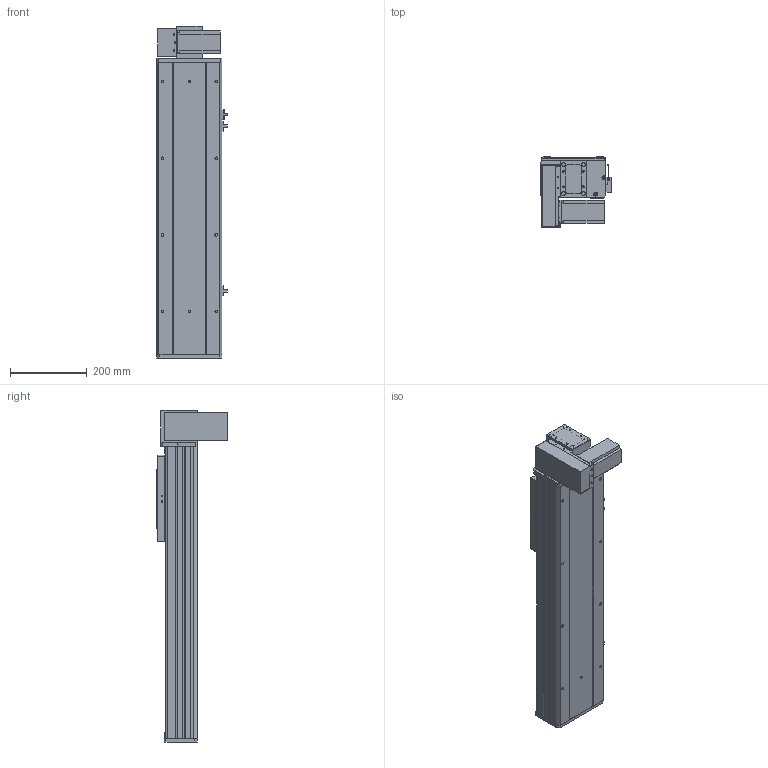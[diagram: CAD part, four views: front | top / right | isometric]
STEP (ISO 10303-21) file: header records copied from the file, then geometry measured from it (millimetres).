
FILE_DESCRIPTION (( 'STEP AP203' ), '1' );
FILE_NAME ('Y170CB-D105-S450-BM-P400W.STEP', '2020-02-20T06:12:35', ( '微软用户' ), ( '微软中国' ), 'SwSTEP 2.0', 'SolidWorks 2017', '' );
FILE_SCHEMA (( 'CONFIG_CONTROL_DESIGN' ));
Length unit declared in the file: millimetre
Products named in the file (18): B-源倛裔啣; Y170CB-D105-S450-BM-P400W; 0C--雄赽釱俋欶-170; 0B-萇儂楊擘啣; 70CB-詩湍--; san松下电机400不带刹车----; Y100-135俋离換覜ん--; 70CB-掛极-; Y170CB-陔俋离換覜結え---; --70CB --喘謫眊楊擘啣-; Y1埴倛裔; 70CB-耜裔啣-; 17B-耜蚾蟀諉啣----; 70C--詩湍揤踡え-; 00B-俋欶BM--163; 70CB--耜裔; 70B喘謫眊----; 70C-雄赽釱-奻-
Assembly tree (21 placements, depth 2):
  Y170CB-D105-S450-BM-P400W
    B-源倛裔啣
    0B-萇儂楊擘啣
    san松下电机400不带刹车----
    70CB-掛极-
    --70CB --喘謫眊楊擘啣-
    70CB-耜裔啣-  x2
    70C--詩湍揤踡え-  x2
    70CB--耜裔
    70C-雄赽釱-奻-
    0C--雄赽釱俋欶-170
    70CB-詩湍--
    Y100-135俋离換覜ん--  x3
    Y170CB-陔俋离換覜結え---
    Y1埴倛裔
    17B-耜蚾蟀諉啣----
    00B-俋欶BM--163
    70B喘謫眊----
Bounding box: 183.5 x 184 x 866 mm (x, y, z)
Volume: 4374358.4 mm3; surface area: 1555162.6 mm2
Topology: 21 solids, 21 shells, 983 faces, 2621 edges, 1738 vertices
Faces by surface type: cylinder 497, plane 462, cone 24
Entity records: 31160 total; most frequent: CARTESIAN_POINT 5676, DIRECTION 5066, ORIENTED_EDGE 4724, EDGE_CURVE 2362, AXIS2_PLACEMENT_3D 1848, VERTEX_POINT 1568, VECTOR 1370, LINE 1370
